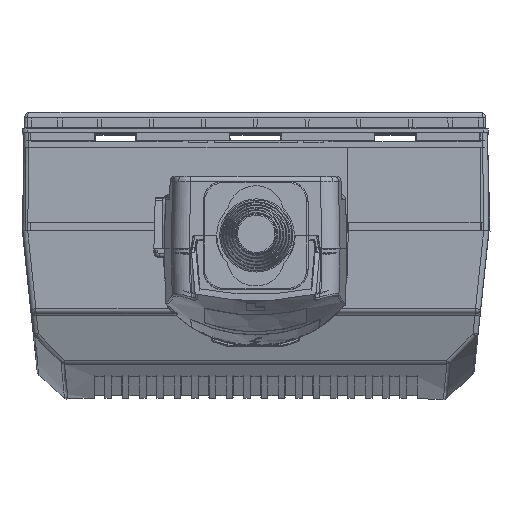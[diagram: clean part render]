
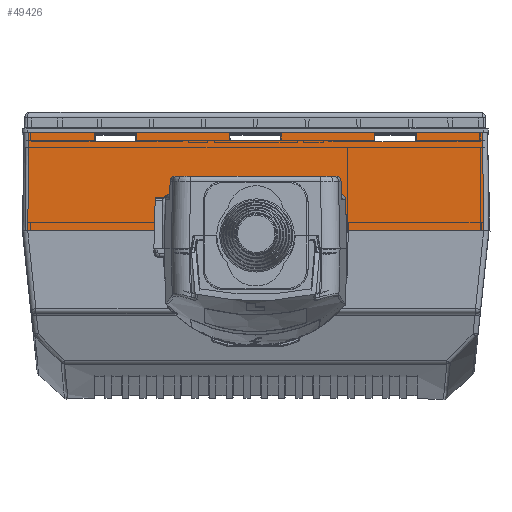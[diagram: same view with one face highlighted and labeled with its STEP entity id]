
A CAD part, top view. The second image highlights one B-rep face of the part: STEP entity #49426.
In plain terms, the highlighted planar face has unit normal (0, 0.013, 1) as drawn and (0, -0.013, 1) by its records, which use the part's own axes.
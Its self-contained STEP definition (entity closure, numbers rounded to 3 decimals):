
#1449=PLANE('',#52760);
#6621=LINE('',#70939,#10804);
#6625=LINE('',#70947,#10808);
#6626=LINE('',#70949,#10809);
#6628=LINE('',#70953,#10811);
#6636=LINE('',#70967,#10819);
#6687=LINE('',#71079,#10870);
#6701=LINE('',#71118,#10884);
#6944=LINE('',#71682,#11127);
#6945=LINE('',#71684,#11128);
#6962=LINE('',#71723,#11145);
#7125=LINE('',#72076,#11308);
#7128=LINE('',#72082,#11311);
#7142=LINE('',#72137,#11325);
#7158=LINE('',#72176,#11341);
#7228=LINE('',#72349,#11411);
#7248=LINE('',#72390,#11431);
#7286=LINE('',#72510,#11469);
#7289=LINE('',#72516,#11472);
#7292=LINE('',#72522,#11475);
#7296=LINE('',#72530,#11479);
#10804=VECTOR('',#58492,1000.);
#10808=VECTOR('',#58498,1000.);
#10809=VECTOR('',#58501,1000.);
#10811=VECTOR('',#58505,1000.);
#10819=VECTOR('',#58515,1000.);
#10870=VECTOR('',#58604,1000.);
#10884=VECTOR('',#58628,1000.);
#11127=VECTOR('',#59165,1000.);
#11128=VECTOR('',#59168,1000.);
#11145=VECTOR('',#59201,1000.);
#11308=VECTOR('',#59504,1000.);
#11311=VECTOR('',#59509,1000.);
#11325=VECTOR('',#59535,1000.);
#11341=VECTOR('',#59561,1000.);
#11411=VECTOR('',#59691,1000.);
#11431=VECTOR('',#59729,1000.);
#11469=VECTOR('',#59899,1000.);
#11472=VECTOR('',#59904,1000.);
#11475=VECTOR('',#59909,1000.);
#11479=VECTOR('',#59915,1000.);
#18937=ORIENTED_EDGE('',*,*,#31361,.T.);
#18938=ORIENTED_EDGE('',*,*,#31358,.T.);
#18939=ORIENTED_EDGE('',*,*,#30672,.T.);
#18940=ORIENTED_EDGE('',*,*,#30654,.T.);
#18941=ORIENTED_EDGE('',*,*,#31275,.F.);
#18942=ORIENTED_EDGE('',*,*,#30954,.T.);
#18943=ORIENTED_EDGE('',*,*,#31299,.T.);
#18944=ORIENTED_EDGE('',*,*,#30955,.F.);
#18945=ORIENTED_EDGE('',*,*,#30585,.F.);
#18946=ORIENTED_EDGE('',*,*,#30600,.F.);
#18947=ORIENTED_EDGE('',*,*,#30592,.T.);
#18948=ORIENTED_EDGE('',*,*,#30590,.F.);
#18949=ORIENTED_EDGE('',*,*,#30589,.T.);
#18950=ORIENTED_EDGE('',*,*,#31152,.T.);
#18951=ORIENTED_EDGE('',*,*,#31196,.F.);
#18952=ORIENTED_EDGE('',*,*,#31155,.F.);
#18953=ORIENTED_EDGE('',*,*,#31175,.T.);
#18954=ORIENTED_EDGE('',*,*,#30974,.F.);
#18955=ORIENTED_EDGE('',*,*,#31368,.F.);
#18956=ORIENTED_EDGE('',*,*,#31364,.F.);
#30585=EDGE_CURVE('',#37600,#37601,#6621,.T.);
#30589=EDGE_CURVE('',#37602,#37603,#6625,.T.);
#30590=EDGE_CURVE('',#37602,#37604,#6626,.T.);
#30592=EDGE_CURVE('',#37605,#37604,#6628,.T.);
#30600=EDGE_CURVE('',#37605,#37600,#6636,.T.);
#30654=EDGE_CURVE('',#37652,#37650,#6687,.T.);
#30672=EDGE_CURVE('',#37667,#37652,#6701,.T.);
#30954=EDGE_CURVE('',#37831,#37832,#6944,.T.);
#30955=EDGE_CURVE('',#37601,#37833,#6945,.T.);
#30974=EDGE_CURVE('',#37846,#37843,#6962,.T.);
#31152=EDGE_CURVE('',#37603,#37958,#7125,.T.);
#31155=EDGE_CURVE('',#37960,#37961,#7128,.T.);
#31175=EDGE_CURVE('',#37960,#37843,#7142,.T.);
#31196=EDGE_CURVE('',#37961,#37958,#7158,.T.);
#31275=EDGE_CURVE('',#37831,#37650,#7228,.T.);
#31299=EDGE_CURVE('',#37832,#37833,#7248,.T.);
#31358=EDGE_CURVE('',#38049,#37667,#7286,.T.);
#31361=EDGE_CURVE('',#38051,#38049,#7289,.T.);
#31364=EDGE_CURVE('',#38051,#38053,#7292,.T.);
#31368=EDGE_CURVE('',#38053,#37846,#7296,.T.);
#37600=VERTEX_POINT('',#70938);
#37601=VERTEX_POINT('',#70940);
#37602=VERTEX_POINT('',#70944);
#37603=VERTEX_POINT('',#70946);
#37604=VERTEX_POINT('',#70950);
#37605=VERTEX_POINT('',#70954);
#37650=VERTEX_POINT('',#71077);
#37652=VERTEX_POINT('',#71080);
#37667=VERTEX_POINT('',#71119);
#37831=VERTEX_POINT('',#71678);
#37832=VERTEX_POINT('',#71681);
#37833=VERTEX_POINT('',#71685);
#37843=VERTEX_POINT('',#71717);
#37846=VERTEX_POINT('',#71722);
#37958=VERTEX_POINT('',#72075);
#37960=VERTEX_POINT('',#72081);
#37961=VERTEX_POINT('',#72083);
#38049=VERTEX_POINT('',#72511);
#38051=VERTEX_POINT('',#72517);
#38053=VERTEX_POINT('',#72523);
#42677=EDGE_LOOP('',(#18937,#18938,#18939,#18940,#18941,#18942,#18943,#18944,
#18945,#18946,#18947,#18948,#18949,#18950,#18951,#18952,#18953,#18954,#18955,
#18956));
#45759=FACE_BOUND('',#42677,.T.);
#49426=ADVANCED_FACE('',(#45759),#1449,.T.);
#52760=AXIS2_PLACEMENT_3D('',#72667,#60025,#60026);
#58492=DIRECTION('',(-1.,0.,0.));
#58498=DIRECTION('',(1.,0.,0.));
#58501=DIRECTION('',(-0.035,0.999,0.013));
#58505=DIRECTION('',(1.,0.,0.));
#58515=DIRECTION('',(-0.035,-0.999,-0.013));
#58604=DIRECTION('',(0.013,-1.,-0.013));
#58628=DIRECTION('',(-1.,0.,0.));
#59165=DIRECTION('',(0.013,1.,0.013));
#59168=DIRECTION('',(-0.013,1.,0.013));
#59201=DIRECTION('',(-0.013,-1.,-0.013));
#59504=DIRECTION('',(0.013,1.,0.013));
#59509=DIRECTION('',(-0.013,1.,0.013));
#59535=DIRECTION('',(1.,0.,0.));
#59561=DIRECTION('',(-1.,0.,0.));
#59691=DIRECTION('',(-1.,0.,0.));
#59729=DIRECTION('',(1.,0.,0.));
#59899=DIRECTION('',(-0.026,1.,0.013));
#59904=DIRECTION('',(-1.,0.,0.));
#59909=DIRECTION('',(0.026,1.,0.013));
#59915=DIRECTION('',(1.,0.,0.));
#60025=DIRECTION('',(0.,-0.013,1.));
#60026=DIRECTION('',(0.,-1.,-0.013));
#70938=CARTESIAN_POINT('',(-10.,-32.5,13.55));
#70939=CARTESIAN_POINT('',(0.,-32.5,13.55));
#70940=CARTESIAN_POINT('',(-45.952,-32.5,13.55));
#70944=CARTESIAN_POINT('',(10.,-32.5,13.55));
#70946=CARTESIAN_POINT('',(45.952,-32.5,13.55));
#70947=CARTESIAN_POINT('',(0.,-32.5,13.55));
#70949=CARTESIAN_POINT('',(8.872,-0.19,13.973));
#70950=CARTESIAN_POINT('',(9.895,-29.5,13.589));
#70953=CARTESIAN_POINT('',(0.,-29.5,13.589));
#70954=CARTESIAN_POINT('',(-9.895,-29.5,13.589));
#70967=CARTESIAN_POINT('',(-8.872,-0.19,13.973));
#71077=CARTESIAN_POINT('',(-87.503,-32.5,13.55));
#71079=CARTESIAN_POINT('',(-87.907,-1.651,13.954));
#71080=CARTESIAN_POINT('',(-88.,5.5,14.047));
#71118=CARTESIAN_POINT('',(0.,5.5,14.047));
#71119=CARTESIAN_POINT('',(-35.307,5.5,14.047));
#71678=CARTESIAN_POINT('',(-62.048,-32.5,13.55));
#71681=CARTESIAN_POINT('',(-62.,-28.85,13.598));
#71682=CARTESIAN_POINT('',(-61.989,-28.039,13.608));
#71684=CARTESIAN_POINT('',(-45.992,-29.452,13.59));
#71685=CARTESIAN_POINT('',(-46.,-28.85,13.598));
#71717=CARTESIAN_POINT('',(87.503,-32.5,13.55));
#71722=CARTESIAN_POINT('',(88.,5.5,14.047));
#71723=CARTESIAN_POINT('',(87.907,-1.651,13.954));
#72075=CARTESIAN_POINT('',(46.,-28.85,13.598));
#72076=CARTESIAN_POINT('',(45.992,-29.452,13.59));
#72081=CARTESIAN_POINT('',(62.048,-32.5,13.55));
#72082=CARTESIAN_POINT('',(61.989,-28.039,13.608));
#72083=CARTESIAN_POINT('',(62.,-28.85,13.598));
#72137=CARTESIAN_POINT('',(0.,-32.5,13.55));
#72176=CARTESIAN_POINT('',(40.,-28.85,13.598));
#72349=CARTESIAN_POINT('',(0.,-32.5,13.55));
#72390=CARTESIAN_POINT('',(-40.,-28.85,13.598));
#72510=CARTESIAN_POINT('',(-35.126,-1.42,13.957));
#72511=CARTESIAN_POINT('',(-35.15,-0.5,13.969));
#72516=CARTESIAN_POINT('',(0.,-0.5,13.969));
#72517=CARTESIAN_POINT('',(35.15,-0.5,13.969));
#72522=CARTESIAN_POINT('',(35.126,-1.42,13.957));
#72523=CARTESIAN_POINT('',(35.307,5.5,14.047));
#72530=CARTESIAN_POINT('',(0.,5.5,14.047));
#72667=CARTESIAN_POINT('',(0.,-0.5,13.969));
